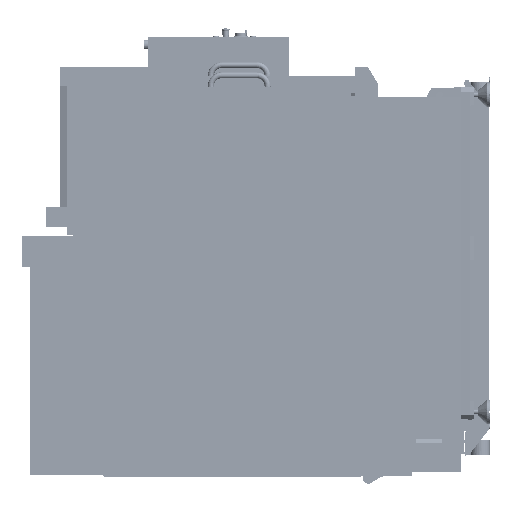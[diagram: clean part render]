
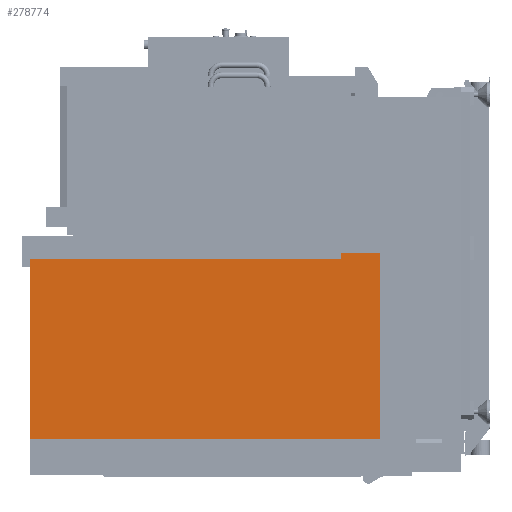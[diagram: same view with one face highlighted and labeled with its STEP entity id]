
A CAD part, left-side view. The second image highlights one B-rep face of the part: STEP entity #278774.
In plain terms, the highlighted planar face has unit normal (-1, 0, 0).
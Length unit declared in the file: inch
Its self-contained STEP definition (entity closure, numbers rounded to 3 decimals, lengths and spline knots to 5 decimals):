
#1314 = PLANE ( 'NONE',  #393534 ) ;
#2094 = ORIENTED_EDGE ( 'NONE', *, *, #13020, .F. ) ;
#7783 = CARTESIAN_POINT ( 'NONE',  ( -70.67575, 53.2403, -52.5621 ) ) ;
#11198 = EDGE_CURVE ( 'NONE', #359563, #423950, #174955, .T. ) ;
#13020 = EDGE_CURVE ( 'NONE', #359563, #71513, #276694, .T. ) ;
#15768 = DIRECTION ( 'NONE',  ( 0., 1., 0. ) ) ;
#17151 = EDGE_CURVE ( 'NONE', #423950, #36899, #324986, .T. ) ;
#30908 = CARTESIAN_POINT ( 'NONE',  ( -70.67575, -11.48947, -15.0397 ) ) ;
#31663 = VECTOR ( 'NONE', #58223, 39.37008 ) ;
#36569 = VERTEX_POINT ( 'NONE', #7783 ) ;
#36899 = VERTEX_POINT ( 'NONE', #148733 ) ;
#42173 = ORIENTED_EDGE ( 'NONE', *, *, #257614, .F. ) ;
#49452 = VECTOR ( 'NONE', #377494, 39.37008 ) ;
#52579 = ORIENTED_EDGE ( 'NONE', *, *, #344392, .F. ) ;
#58223 = DIRECTION ( 'NONE',  ( 0., 0., 1. ) ) ;
#59731 = CARTESIAN_POINT ( 'NONE',  ( -70.67575, -11.48947, -13.66679 ) ) ;
#68970 = ORIENTED_EDGE ( 'NONE', *, *, #17151, .T. ) ;
#71513 = VERTEX_POINT ( 'NONE', #114999 ) ;
#89875 = CARTESIAN_POINT ( 'NONE',  ( -70.67575, 53.2403, -15.0397 ) ) ;
#114999 = CARTESIAN_POINT ( 'NONE',  ( -70.67575, -19.50285, -52.5621 ) ) ;
#148733 = CARTESIAN_POINT ( 'NONE',  ( -70.67575, -11.48947, -15.0397 ) ) ;
#151097 = VECTOR ( 'NONE', #217190, 39.37008 ) ;
#168482 = VECTOR ( 'NONE', #15768, 39.37008 ) ;
#174955 = LINE ( 'NONE', #282028, #252982 ) ;
#180809 = CARTESIAN_POINT ( 'NONE',  ( -70.67575, 52.2303, -52.5621 ) ) ;
#194019 = DIRECTION ( 'NONE',  ( 0., 0., -1. ) ) ;
#198771 = FACE_OUTER_BOUND ( 'NONE', #286725, .T. ) ;
#208999 = CARTESIAN_POINT ( 'NONE',  ( -70.67575, 52.2303, -15.0397 ) ) ;
#217190 = DIRECTION ( 'NONE',  ( 0., 1., 0. ) ) ;
#248698 = CARTESIAN_POINT ( 'NONE',  ( -70.67575, -19.50285, -52.5621 ) ) ;
#252982 = VECTOR ( 'NONE', #275747, 39.37008 ) ;
#256184 = CARTESIAN_POINT ( 'NONE',  ( -70.67575, -19.50285, -13.66679 ) ) ;
#257614 = EDGE_CURVE ( 'NONE', #36569, #277268, #324332, .T. ) ;
#275747 = DIRECTION ( 'NONE',  ( 0., 1., 0. ) ) ;
#276694 = LINE ( 'NONE', #248698, #49452 ) ;
#277268 = VERTEX_POINT ( 'NONE', #89875 ) ;
#278774 = ADVANCED_FACE ( 'NONE', ( #198771 ), #1314, .T. ) ;
#282028 = CARTESIAN_POINT ( 'NONE',  ( -70.67575, -11.48947, -13.66679 ) ) ;
#286725 = EDGE_LOOP ( 'NONE', ( #380371, #68970, #304870, #42173, #52579, #2094 ) ) ;
#304870 = ORIENTED_EDGE ( 'NONE', *, *, #352979, .T. ) ;
#315975 = LINE ( 'NONE', #180809, #151097 ) ;
#324332 = LINE ( 'NONE', #352260, #31663 ) ;
#324986 = LINE ( 'NONE', #30908, #424673 ) ;
#329700 = DIRECTION ( 'NONE',  ( -1., 0., 0. ) ) ;
#331830 = DIRECTION ( 'NONE',  ( 0., 0., 1. ) ) ;
#344392 = EDGE_CURVE ( 'NONE', #71513, #36569, #315975, .T. ) ;
#352260 = CARTESIAN_POINT ( 'NONE',  ( -70.67575, 53.2403, -15.0397 ) ) ;
#352979 = EDGE_CURVE ( 'NONE', #36899, #277268, #378416, .T. ) ;
#359563 = VERTEX_POINT ( 'NONE', #256184 ) ;
#377494 = DIRECTION ( 'NONE',  ( 0., 0., -1. ) ) ;
#378416 = LINE ( 'NONE', #208999, #168482 ) ;
#380371 = ORIENTED_EDGE ( 'NONE', *, *, #11198, .T. ) ;
#393534 = AXIS2_PLACEMENT_3D ( 'NONE', #402551, #329700, #331830 ) ;
#402551 = CARTESIAN_POINT ( 'NONE',  ( -70.67575, 52.2303, -15.0397 ) ) ;
#423950 = VERTEX_POINT ( 'NONE', #59731 ) ;
#424673 = VECTOR ( 'NONE', #194019, 39.37008 ) ;
